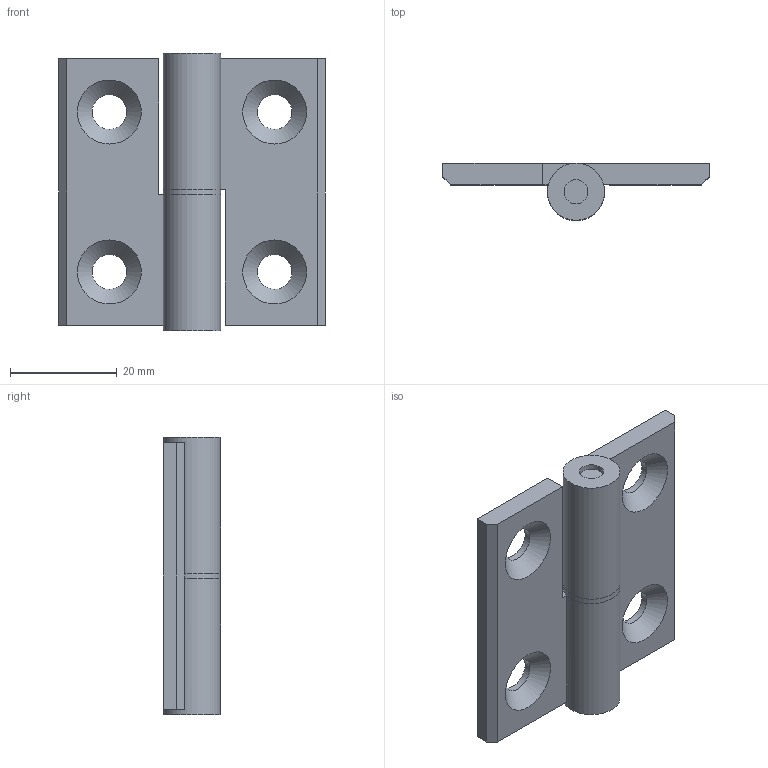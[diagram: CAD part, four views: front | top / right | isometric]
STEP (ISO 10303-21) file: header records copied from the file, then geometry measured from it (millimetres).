
FILE_DESCRIPTION((''),'2;1');
FILE_NAME('E:\catalogue and flyer\Profile catalogue 2015\Accessories ACC info\Accessories ACC step file 31Mar16\ACC-MHL5050-8.stp','2016-04-07T13:23:58',('h029'),(''),'Autodesk Inventor 11','Autodesk Inventor 11','');
FILE_SCHEMA(('AUTOMOTIVE_DESIGN { 1 0 10303 214 1 1 1 1 }'));
Length unit declared in the file: millimetre
Products named in the file (4): ACC-MHL5050-8; hinge part 1; pin; washer
Assembly tree (4 placements, depth 2):
  ACC-MHL5050-8
    hinge part 1  x2
    pin
    washer
Bounding box: 50 x 10.7 x 52 mm (x, y, z)
Volume: 11721.9 mm3; surface area: 8075.5 mm2
Topology: 4 solids, 4 shells, 43 faces, 93 edges, 62 vertices
Faces by surface type: plane 26, cylinder 9, bspline 8
Full cylindrical faces by diameter (mm): 4 x2, 4.5 x4, 10.7 x3
Entity records: 762 total; most frequent: CARTESIAN_POINT 170, DIRECTION 115, ORIENTED_EDGE 76, AXIS2_PLACEMENT_3D 48, EDGE_LOOP 43, EDGE_CURVE 38, VERTEX_POINT 31, FACE_OUTER_BOUND 25
